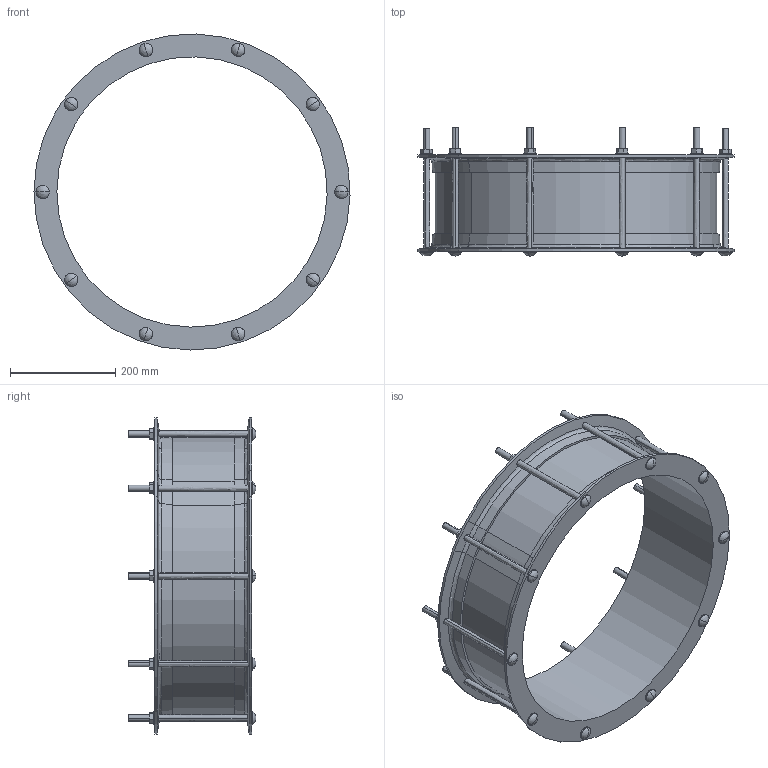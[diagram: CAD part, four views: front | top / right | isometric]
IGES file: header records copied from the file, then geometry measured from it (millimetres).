
Start section:  PTC IGES file: VJC_511.igs
Global section: file name: VJC_511.igs; native system: Creo Parametric by PTC Inc.; preprocessor: 2016130; author: mfairey; organization: Unknown; date: 20181206.101821; units: millimetre
Bounding box: 601.63 x 243.33 x 601.54 mm (x, y, z)
Surface area: 946591 mm2 (no closed solid volume)
Topology: 0 solids, 0 shells, 214 faces, 1116 edges, 1096 vertices
Faces by surface type: revolution 120, bspline 94
